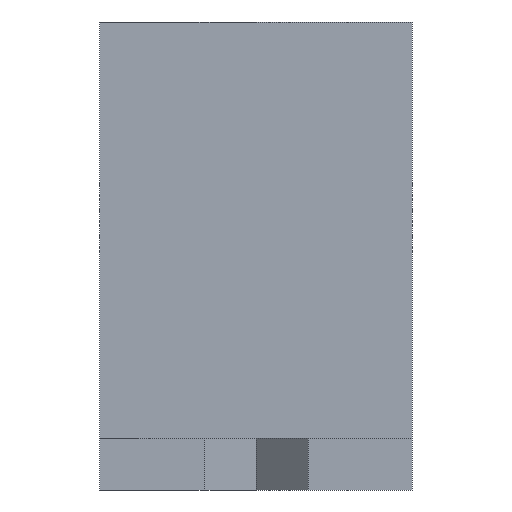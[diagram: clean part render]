
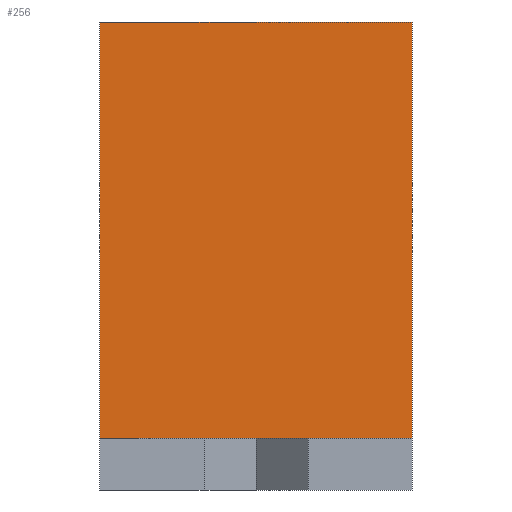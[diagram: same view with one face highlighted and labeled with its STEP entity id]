
A CAD part, front view. The second image highlights one B-rep face of the part: STEP entity #256.
In plain terms, the highlighted planar face has unit normal (0, -1, 0).
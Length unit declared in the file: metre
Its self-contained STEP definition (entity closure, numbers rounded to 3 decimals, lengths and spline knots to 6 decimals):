
#63=ORIENTED_EDGE('',*,*,#80,.F.);
#64=ORIENTED_EDGE('',*,*,#101,.F.);
#65=ORIENTED_EDGE('',*,*,#112,.T.);
#66=ORIENTED_EDGE('',*,*,#105,.T.);
#67=ORIENTED_EDGE('',*,*,#95,.F.);
#80=EDGE_CURVE('',#114,#115,#136,.T.);
#95=EDGE_CURVE('',#115,#127,#151,.T.);
#101=EDGE_CURVE('',#131,#114,#157,.T.);
#105=EDGE_CURVE('',#133,#127,#161,.T.);
#112=EDGE_CURVE('',#131,#133,#168,.T.);
#114=VERTEX_POINT('',#354);
#115=VERTEX_POINT('',#355);
#127=VERTEX_POINT('',#385);
#131=VERTEX_POINT('',#395);
#133=VERTEX_POINT('',#404);
#136=LINE('',#353,#170);
#151=LINE('',#384,#185);
#157=LINE('',#396,#191);
#161=LINE('',#403,#195);
#168=LINE('',#417,#202);
#170=VECTOR('',#291,1.);
#185=VECTOR('',#312,1.);
#191=VECTOR('',#320,1.);
#195=VECTOR('',#328,1.);
#202=VECTOR('',#343,1.);
#214=EDGE_LOOP('',(#63,#64,#65,#66,#67));
#228=FACE_BOUND('',#214,.T.);
#242=PLANE('',#283);
#256=ADVANCED_FACE('',(#228),#242,.T.);
#283=AXIS2_PLACEMENT_3D('',#416,#341,#342);
#291=DIRECTION('',(-1.,0.,0.));
#312=DIRECTION('',(-1.,0.,0.));
#320=DIRECTION('',(0.,0.,-1.));
#328=DIRECTION('',(0.,0.,-1.));
#341=DIRECTION('',(0.,-1.,0.));
#342=DIRECTION('',(0.,0.,-1.));
#343=DIRECTION('',(-1.,0.,0.));
#353=CARTESIAN_POINT('',(0.,-0.0127,0.0127));
#354=CARTESIAN_POINT('',(0.0381,-0.0127,0.0127));
#355=CARTESIAN_POINT('',(0.,-0.0127,0.0127));
#384=CARTESIAN_POINT('',(0.,-0.0127,0.0127));
#385=CARTESIAN_POINT('',(-0.0381,-0.0127,0.0127));
#395=CARTESIAN_POINT('',(0.0381,-0.0127,0.1143));
#396=CARTESIAN_POINT('',(0.0381,-0.0127,0.1143));
#403=CARTESIAN_POINT('',(-0.0381,-0.0127,0.1143));
#404=CARTESIAN_POINT('',(-0.0381,-0.0127,0.1143));
#416=CARTESIAN_POINT('',(0.,-0.0127,0.1143));
#417=CARTESIAN_POINT('',(0.,-0.0127,0.1143));
